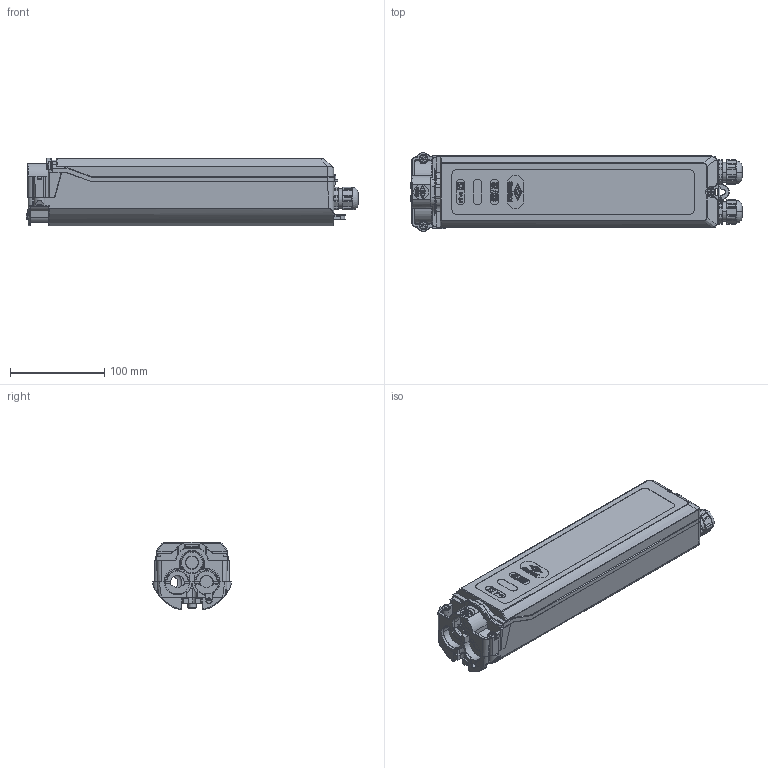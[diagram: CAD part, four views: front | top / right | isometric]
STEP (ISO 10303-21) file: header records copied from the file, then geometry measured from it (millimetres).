
FILE_DESCRIPTION (( 'STEP AP203' ), '1' );
FILE_NAME ('3D - HSW2520-M20 Außenkontur.STEP', '2019-06-28T09:20:00', ( '' ), ( '' ), 'SwSTEP 2.0', 'SolidWorks 2013', '' );
FILE_SCHEMA (( 'CONFIG_CONTROL_DESIGN' ));
Length unit declared in the file: millimetre
Products named in the file (1): 3D - HSW2520-M20 Außenkontur
Bounding box: 353.13 x 83.5 x 71.86 mm (x, y, z)
Surface area: 127930 mm2 (no closed solid volume)
Topology: 0 solids, 23 shells, 1271 faces, 4471 edges, 3148 vertices
Faces by surface type: plane 579, cylinder 370, bspline 135, cone 95, torus 86, sphere 6
Entity records: 58377 total; most frequent: CARTESIAN_POINT 22178, ORIENTED_EDGE 7350, DIRECTION 6836, EDGE_CURVE 4469, VERTEX_POINT 3148, VECTOR 2584, LINE 2584, AXIS2_PLACEMENT_3D 2126
